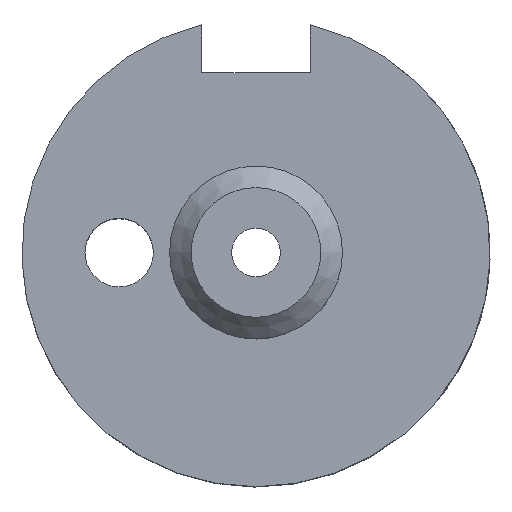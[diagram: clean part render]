
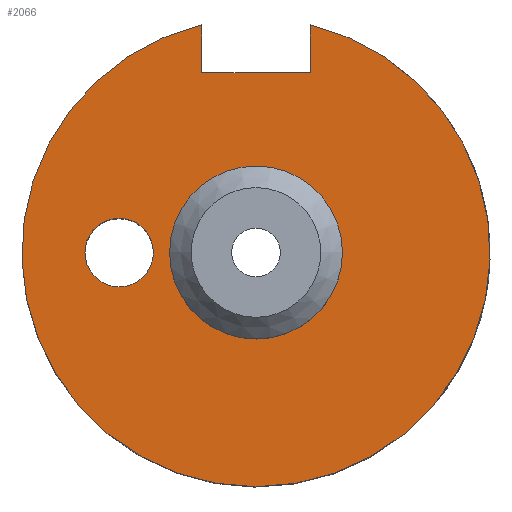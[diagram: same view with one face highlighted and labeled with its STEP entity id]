
A CAD part, top view. The second image highlights one B-rep face of the part: STEP entity #2066.
In plain terms, the highlighted planar face has unit normal (0, 0, 1).
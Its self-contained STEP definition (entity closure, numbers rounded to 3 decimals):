
#21 = EDGE_CURVE('',#22,#24,#26,.T.);
#22 = VERTEX_POINT('',#23);
#23 = CARTESIAN_POINT('',(1.5,6.325,-0.6));
#24 = VERTEX_POINT('',#25);
#25 = CARTESIAN_POINT('',(-1.5,6.325,-0.6));
#26 = SURFACE_CURVE('',#27,(#32,#44),.PCURVE_S1.);
#27 = CIRCLE('',#28,6.5);
#28 = AXIS2_PLACEMENT_3D('',#29,#30,#31);
#29 = CARTESIAN_POINT('',(0.,0.,-0.6));
#30 = DIRECTION('',(0.,0.,-1.));
#31 = DIRECTION('',(0.231,0.973,0.));
#32 = PCURVE('',#33,#38);
#33 = CYLINDRICAL_SURFACE('',#34,6.5);
#34 = AXIS2_PLACEMENT_3D('',#35,#36,#37);
#35 = CARTESIAN_POINT('',(0.,0.,-7.5));
#36 = DIRECTION('',(-0.,-0.,-1.));
#37 = DIRECTION('',(1.,0.,0.));
#38 = DEFINITIONAL_REPRESENTATION('',(#39),#43);
#39 = LINE('',#40,#41);
#40 = CARTESIAN_POINT('',(-7.621,-6.9));
#41 = VECTOR('',#42,1.);
#42 = DIRECTION('',(1.,-0.));
#43 = ( GEOMETRIC_REPRESENTATION_CONTEXT(2) 
PARAMETRIC_REPRESENTATION_CONTEXT() REPRESENTATION_CONTEXT('2D SPACE',''
  ) );
#44 = PCURVE('',#45,#50);
#45 = PLANE('',#46);
#46 = AXIS2_PLACEMENT_3D('',#47,#48,#49);
#47 = CARTESIAN_POINT('',(0.,0.,-0.6));
#48 = DIRECTION('',(0.,0.,1.));
#49 = DIRECTION('',(1.,0.,-0.));
#50 = DEFINITIONAL_REPRESENTATION('',(#51),#59);
#51 = ( BOUNDED_CURVE() B_SPLINE_CURVE(2,(#52,#53,#54,#55,#56,#57,#58),
.UNSPECIFIED.,.T.,.F.) B_SPLINE_CURVE_WITH_KNOTS((1,2,2,2,2,1),(
    -2.094,0.,2.094,4.189,6.283,
8.378),.UNSPECIFIED.) CURVE() GEOMETRIC_REPRESENTATION_ITEM() 
RATIONAL_B_SPLINE_CURVE((1.,0.5,1.,0.5,1.,0.5,1.)) REPRESENTATION_ITEM(
  '') );
#52 = CARTESIAN_POINT('',(1.5,6.325));
#53 = CARTESIAN_POINT('',(12.454,3.726));
#54 = CARTESIAN_POINT('',(4.727,-4.461));
#55 = CARTESIAN_POINT('',(-3.,-12.649));
#56 = CARTESIAN_POINT('',(-6.227,-1.863));
#57 = CARTESIAN_POINT('',(-9.454,8.923));
#58 = CARTESIAN_POINT('',(1.5,6.325));
#59 = ( GEOMETRIC_REPRESENTATION_CONTEXT(2) 
PARAMETRIC_REPRESENTATION_CONTEXT() REPRESENTATION_CONTEXT('2D SPACE',''
  ) );
#76 = PLANE('',#77);
#77 = AXIS2_PLACEMENT_3D('',#78,#79,#80);
#78 = CARTESIAN_POINT('',(1.5,5.,-8.));
#79 = DIRECTION('',(1.,0.,0.));
#80 = DIRECTION('',(0.,0.,1.));
#236 = PLANE('',#237);
#237 = AXIS2_PLACEMENT_3D('',#238,#239,#240);
#238 = CARTESIAN_POINT('',(-1.5,5.,-8.));
#239 = DIRECTION('',(1.,0.,0.));
#240 = DIRECTION('',(0.,0.,1.));
#253 = VERTEX_POINT('',#254);
#254 = CARTESIAN_POINT('',(-1.5,5.,-0.6));
#268 = PLANE('',#269);
#269 = AXIS2_PLACEMENT_3D('',#270,#271,#272);
#270 = CARTESIAN_POINT('',(-1.5,5.,-8.));
#271 = DIRECTION('',(0.,1.,0.));
#272 = DIRECTION('',(0.,0.,1.));
#300 = EDGE_CURVE('',#253,#24,#301,.T.);
#301 = SURFACE_CURVE('',#302,(#306,#312),.PCURVE_S1.);
#302 = LINE('',#303,#304);
#303 = CARTESIAN_POINT('',(-1.5,2.5,-0.6));
#304 = VECTOR('',#305,1.);
#305 = DIRECTION('',(0.,1.,0.));
#306 = PCURVE('',#236,#307);
#307 = DEFINITIONAL_REPRESENTATION('',(#308),#311);
#308 = B_SPLINE_CURVE_WITH_KNOTS('',1,(#309,#310),.UNSPECIFIED.,.F.,.F.,
  (2,2),(2.5,4.),.PIECEWISE_BEZIER_KNOTS.);
#309 = CARTESIAN_POINT('',(7.4,0.));
#310 = CARTESIAN_POINT('',(7.4,-1.5));
#311 = ( GEOMETRIC_REPRESENTATION_CONTEXT(2) 
PARAMETRIC_REPRESENTATION_CONTEXT() REPRESENTATION_CONTEXT('2D SPACE',''
  ) );
#312 = PCURVE('',#45,#313);
#313 = DEFINITIONAL_REPRESENTATION('',(#314),#317);
#314 = B_SPLINE_CURVE_WITH_KNOTS('',1,(#315,#316),.UNSPECIFIED.,.F.,.F.,
  (2,2),(2.5,4.),.PIECEWISE_BEZIER_KNOTS.);
#315 = CARTESIAN_POINT('',(-1.5,5.));
#316 = CARTESIAN_POINT('',(-1.5,6.5));
#317 = ( GEOMETRIC_REPRESENTATION_CONTEXT(2) 
PARAMETRIC_REPRESENTATION_CONTEXT() REPRESENTATION_CONTEXT('2D SPACE',''
  ) );
#325 = VERTEX_POINT('',#326);
#326 = CARTESIAN_POINT('',(1.5,5.,-0.6));
#367 = EDGE_CURVE('',#325,#253,#368,.T.);
#368 = SURFACE_CURVE('',#369,(#373,#379),.PCURVE_S1.);
#369 = LINE('',#370,#371);
#370 = CARTESIAN_POINT('',(-0.75,5.,-0.6));
#371 = VECTOR('',#372,1.);
#372 = DIRECTION('',(-1.,0.,0.));
#373 = PCURVE('',#268,#374);
#374 = DEFINITIONAL_REPRESENTATION('',(#375),#378);
#375 = B_SPLINE_CURVE_WITH_KNOTS('',1,(#376,#377),.UNSPECIFIED.,.F.,.F.,
  (2,2),(-2.25,0.75),.PIECEWISE_BEZIER_KNOTS.);
#376 = CARTESIAN_POINT('',(7.4,3.));
#377 = CARTESIAN_POINT('',(7.4,0.));
#378 = ( GEOMETRIC_REPRESENTATION_CONTEXT(2) 
PARAMETRIC_REPRESENTATION_CONTEXT() REPRESENTATION_CONTEXT('2D SPACE',''
  ) );
#379 = PCURVE('',#45,#380);
#380 = DEFINITIONAL_REPRESENTATION('',(#381),#384);
#381 = B_SPLINE_CURVE_WITH_KNOTS('',1,(#382,#383),.UNSPECIFIED.,.F.,.F.,
  (2,2),(-2.25,0.75),.PIECEWISE_BEZIER_KNOTS.);
#382 = CARTESIAN_POINT('',(1.5,5.));
#383 = CARTESIAN_POINT('',(-1.5,5.));
#384 = ( GEOMETRIC_REPRESENTATION_CONTEXT(2) 
PARAMETRIC_REPRESENTATION_CONTEXT() REPRESENTATION_CONTEXT('2D SPACE',''
  ) );
#815 = CYLINDRICAL_SURFACE('',#816,0.95);
#816 = AXIS2_PLACEMENT_3D('',#817,#818,#819);
#817 = CARTESIAN_POINT('',(-3.8,0.,-8.5));
#818 = DIRECTION('',(-0.,-0.,-1.));
#819 = DIRECTION('',(1.,0.,0.));
#1490 = CYLINDRICAL_SURFACE('',#1491,2.4);
#1491 = AXIS2_PLACEMENT_3D('',#1492,#1493,#1494);
#1492 = CARTESIAN_POINT('',(0.,0.,-0.6));
#1493 = DIRECTION('',(-0.,-0.,-1.));
#1494 = DIRECTION('',(1.,0.,0.));
#1525 = EDGE_CURVE('',#1526,#1526,#1528,.T.);
#1526 = VERTEX_POINT('',#1527);
#1527 = CARTESIAN_POINT('',(2.4,0.,-0.6));
#1528 = SURFACE_CURVE('',#1529,(#1534,#1541),.PCURVE_S1.);
#1529 = CIRCLE('',#1530,2.4);
#1530 = AXIS2_PLACEMENT_3D('',#1531,#1532,#1533);
#1531 = CARTESIAN_POINT('',(0.,0.,-0.6));
#1532 = DIRECTION('',(0.,0.,1.));
#1533 = DIRECTION('',(1.,0.,0.));
#1534 = PCURVE('',#1490,#1535);
#1535 = DEFINITIONAL_REPRESENTATION('',(#1536),#1540);
#1536 = LINE('',#1537,#1538);
#1537 = CARTESIAN_POINT('',(-0.,0.));
#1538 = VECTOR('',#1539,1.);
#1539 = DIRECTION('',(-1.,0.));
#1540 = ( GEOMETRIC_REPRESENTATION_CONTEXT(2) 
PARAMETRIC_REPRESENTATION_CONTEXT() REPRESENTATION_CONTEXT('2D SPACE',''
  ) );
#1541 = PCURVE('',#45,#1542);
#1542 = DEFINITIONAL_REPRESENTATION('',(#1543),#1547);
#1543 = CIRCLE('',#1544,2.4);
#1544 = AXIS2_PLACEMENT_2D('',#1545,#1546);
#1545 = CARTESIAN_POINT('',(0.,0.));
#1546 = DIRECTION('',(1.,0.));
#1547 = ( GEOMETRIC_REPRESENTATION_CONTEXT(2) 
PARAMETRIC_REPRESENTATION_CONTEXT() REPRESENTATION_CONTEXT('2D SPACE',''
  ) );
#1785 = VERTEX_POINT('',#1786);
#1786 = CARTESIAN_POINT('',(-2.85,0.,-0.6));
#1807 = EDGE_CURVE('',#1785,#1785,#1808,.T.);
#1808 = SURFACE_CURVE('',#1809,(#1814,#1821),.PCURVE_S1.);
#1809 = CIRCLE('',#1810,0.95);
#1810 = AXIS2_PLACEMENT_3D('',#1811,#1812,#1813);
#1811 = CARTESIAN_POINT('',(-3.8,0.,-0.6));
#1812 = DIRECTION('',(0.,0.,-1.));
#1813 = DIRECTION('',(1.,0.,0.));
#1814 = PCURVE('',#815,#1815);
#1815 = DEFINITIONAL_REPRESENTATION('',(#1816),#1820);
#1816 = LINE('',#1817,#1818);
#1817 = CARTESIAN_POINT('',(-6.283,-7.9));
#1818 = VECTOR('',#1819,1.);
#1819 = DIRECTION('',(1.,-0.));
#1820 = ( GEOMETRIC_REPRESENTATION_CONTEXT(2) 
PARAMETRIC_REPRESENTATION_CONTEXT() REPRESENTATION_CONTEXT('2D SPACE',''
  ) );
#1821 = PCURVE('',#45,#1822);
#1822 = DEFINITIONAL_REPRESENTATION('',(#1823),#1831);
#1823 = ( BOUNDED_CURVE() B_SPLINE_CURVE(2,(#1824,#1825,#1826,#1827,
#1828,#1829,#1830),.UNSPECIFIED.,.T.,.F.) B_SPLINE_CURVE_WITH_KNOTS((1,2
    ,2,2,2,1),(-2.094,0.,2.094,4.189,
6.283,8.378),.UNSPECIFIED.) CURVE() 
GEOMETRIC_REPRESENTATION_ITEM() RATIONAL_B_SPLINE_CURVE((1.,0.5,1.,0.5,
1.,0.5,1.)) REPRESENTATION_ITEM('') );
#1824 = CARTESIAN_POINT('',(-2.85,0.));
#1825 = CARTESIAN_POINT('',(-2.85,-1.645));
#1826 = CARTESIAN_POINT('',(-4.275,-0.823));
#1827 = CARTESIAN_POINT('',(-5.7,0.));
#1828 = CARTESIAN_POINT('',(-4.275,0.823));
#1829 = CARTESIAN_POINT('',(-2.85,1.645));
#1830 = CARTESIAN_POINT('',(-2.85,0.));
#1831 = ( GEOMETRIC_REPRESENTATION_CONTEXT(2) 
PARAMETRIC_REPRESENTATION_CONTEXT() REPRESENTATION_CONTEXT('2D SPACE',''
  ) );
#2048 = EDGE_CURVE('',#325,#22,#2049,.T.);
#2049 = SURFACE_CURVE('',#2050,(#2054,#2060),.PCURVE_S1.);
#2050 = LINE('',#2051,#2052);
#2051 = CARTESIAN_POINT('',(1.5,2.5,-0.6));
#2052 = VECTOR('',#2053,1.);
#2053 = DIRECTION('',(0.,1.,0.));
#2054 = PCURVE('',#76,#2055);
#2055 = DEFINITIONAL_REPRESENTATION('',(#2056),#2059);
#2056 = B_SPLINE_CURVE_WITH_KNOTS('',1,(#2057,#2058),.UNSPECIFIED.,.F.,
  .F.,(2,2),(2.5,4.),.PIECEWISE_BEZIER_KNOTS.);
#2057 = CARTESIAN_POINT('',(7.4,0.));
#2058 = CARTESIAN_POINT('',(7.4,-1.5));
#2059 = ( GEOMETRIC_REPRESENTATION_CONTEXT(2) 
PARAMETRIC_REPRESENTATION_CONTEXT() REPRESENTATION_CONTEXT('2D SPACE',''
  ) );
#2060 = PCURVE('',#45,#2061);
#2061 = DEFINITIONAL_REPRESENTATION('',(#2062),#2065);
#2062 = B_SPLINE_CURVE_WITH_KNOTS('',1,(#2063,#2064),.UNSPECIFIED.,.F.,
  .F.,(2,2),(2.5,4.),.PIECEWISE_BEZIER_KNOTS.);
#2063 = CARTESIAN_POINT('',(1.5,5.));
#2064 = CARTESIAN_POINT('',(1.5,6.5));
#2065 = ( GEOMETRIC_REPRESENTATION_CONTEXT(2) 
PARAMETRIC_REPRESENTATION_CONTEXT() REPRESENTATION_CONTEXT('2D SPACE',''
  ) );
#2066 = ADVANCED_FACE('',(#2067,#2073,#2076),#45,.T.);
#2067 = FACE_BOUND('',#2068,.T.);
#2068 = EDGE_LOOP('',(#2069,#2070,#2071,#2072));
#2069 = ORIENTED_EDGE('',*,*,#300,.T.);
#2070 = ORIENTED_EDGE('',*,*,#21,.F.);
#2071 = ORIENTED_EDGE('',*,*,#2048,.F.);
#2072 = ORIENTED_EDGE('',*,*,#367,.T.);
#2073 = FACE_BOUND('',#2074,.T.);
#2074 = EDGE_LOOP('',(#2075));
#2075 = ORIENTED_EDGE('',*,*,#1807,.T.);
#2076 = FACE_BOUND('',#2077,.T.);
#2077 = EDGE_LOOP('',(#2078));
#2078 = ORIENTED_EDGE('',*,*,#1525,.F.);
